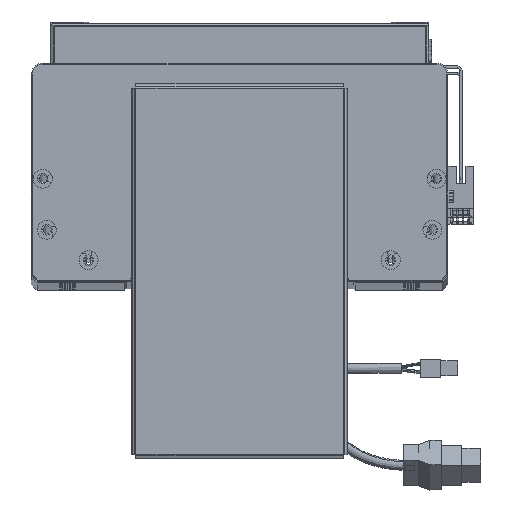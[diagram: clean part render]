
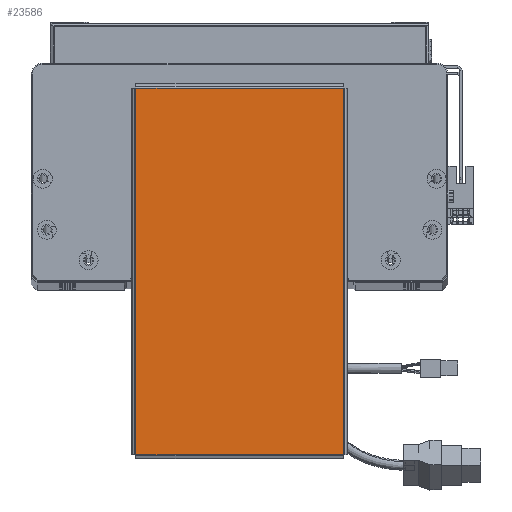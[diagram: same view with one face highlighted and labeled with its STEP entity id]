
A CAD part, top view. The second image highlights one B-rep face of the part: STEP entity #23586.
In plain terms, the highlighted planar face has unit normal (0, 0, 1).
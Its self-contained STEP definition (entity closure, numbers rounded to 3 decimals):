
#1641 = PLANE ( 'NONE',  #8347 ) ;
#1884 = DIRECTION ( 'NONE',  ( 1., 0., 0. ) ) ;
#2550 = CARTESIAN_POINT ( 'NONE',  ( 96.763, -54.763, 0. ) ) ;
#6876 = VECTOR ( 'NONE', #39220, 1000. ) ;
#8347 = AXIS2_PLACEMENT_3D ( 'NONE', #40741, #34844, #1884 ) ;
#8687 = EDGE_LOOP ( 'NONE', ( #64553, #49187, #23433, #29090 ) ) ;
#10007 = VERTEX_POINT ( 'NONE', #58838 ) ;
#12525 = DIRECTION ( 'NONE',  ( 0., 1., 0. ) ) ;
#14146 = VERTEX_POINT ( 'NONE', #60402 ) ;
#14756 = EDGE_CURVE ( 'NONE', #10007, #14146, #35445, .T. ) ;
#15566 = EDGE_CURVE ( 'NONE', #14146, #36073, #21677, .T. ) ;
#18246 = CARTESIAN_POINT ( 'NONE',  ( 96.763, -54.793, 0. ) ) ;
#21245 = CARTESIAN_POINT ( 'NONE',  ( -96.763, 54.793, 0. ) ) ;
#21677 = LINE ( 'NONE', #62351, #6876 ) ;
#23433 = ORIENTED_EDGE ( 'NONE', *, *, #67365, .T. ) ;
#23586 = ADVANCED_FACE ( 'NONE', ( #59938 ), #1641, .T. ) ;
#25093 = LINE ( 'NONE', #46477, #61821 ) ;
#29090 = ORIENTED_EDGE ( 'NONE', *, *, #14756, .T. ) ;
#34844 = DIRECTION ( 'NONE',  ( 0., 0., 1. ) ) ;
#35445 = LINE ( 'NONE', #21245, #59797 ) ;
#36073 = VERTEX_POINT ( 'NONE', #2550 ) ;
#36298 = VERTEX_POINT ( 'NONE', #61113 ) ;
#39220 = DIRECTION ( 'NONE',  ( 1., 0., 0. ) ) ;
#40741 = CARTESIAN_POINT ( 'NONE',  ( 0., 0., 0. ) ) ;
#40799 = VECTOR ( 'NONE', #12525, 1000. ) ;
#46477 = CARTESIAN_POINT ( 'NONE',  ( 96.793, 54.763, 0. ) ) ;
#49187 = ORIENTED_EDGE ( 'NONE', *, *, #59177, .T. ) ;
#54768 = LINE ( 'NONE', #18246, #40799 ) ;
#56716 = DIRECTION ( 'NONE',  ( -1., 0., 0. ) ) ;
#58838 = CARTESIAN_POINT ( 'NONE',  ( -96.763, 54.763, 0. ) ) ;
#59177 = EDGE_CURVE ( 'NONE', #36073, #36298, #54768, .T. ) ;
#59797 = VECTOR ( 'NONE', #60312, 1000. ) ;
#59938 = FACE_OUTER_BOUND ( 'NONE', #8687, .T. ) ;
#60312 = DIRECTION ( 'NONE',  ( 0., -1., 0. ) ) ;
#60402 = CARTESIAN_POINT ( 'NONE',  ( -96.763, -54.763, 0. ) ) ;
#61113 = CARTESIAN_POINT ( 'NONE',  ( 96.763, 54.763, 0. ) ) ;
#61821 = VECTOR ( 'NONE', #56716, 1000. ) ;
#62351 = CARTESIAN_POINT ( 'NONE',  ( -96.793, -54.763, 0. ) ) ;
#64553 = ORIENTED_EDGE ( 'NONE', *, *, #15566, .T. ) ;
#67365 = EDGE_CURVE ( 'NONE', #36298, #10007, #25093, .T. ) ;
